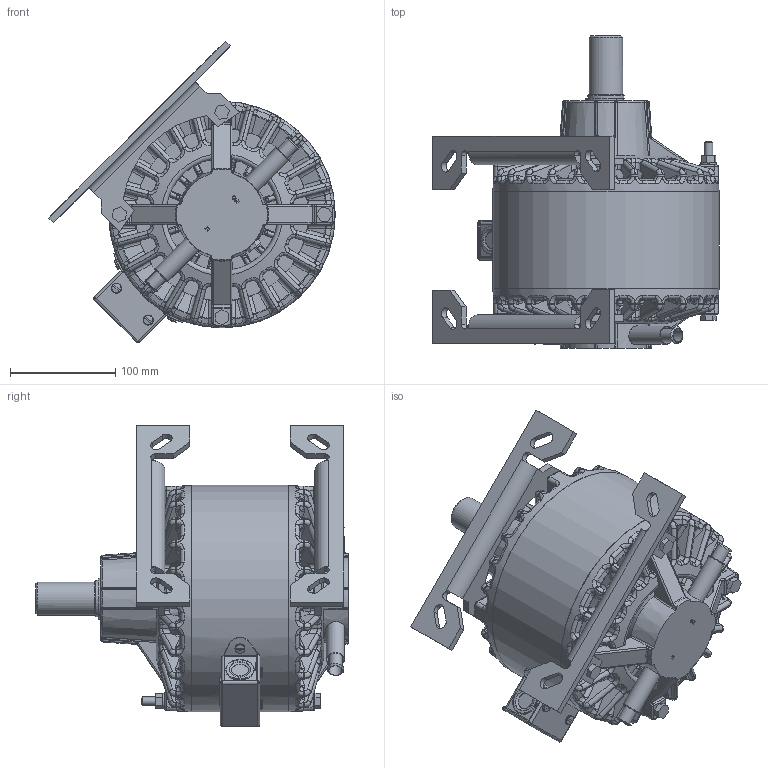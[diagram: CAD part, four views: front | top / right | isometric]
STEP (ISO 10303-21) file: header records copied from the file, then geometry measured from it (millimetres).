
FILE_DESCRIPTION(/* description */ ('STEP AP214'),/* implementation_level */ '2;1');
FILE_NAME(/* name */ '50MBW90B20_stp.step',/* time_stamp */ '2026-05-13T10:20:40-05:00',/* author */ (''),/* organization */ (''),/* preprocessor_version */ 'ST-DEVELOPER v20.1',/* originating_system */ 'Autodesk Translation Framework v15.8.0.0',/* authorisation */ '');
FILE_SCHEMA (('AUTOMOTIVE_DESIGN { 1 0 10303 214 3 1 1 }'));
Products named in the file (1): 50MBW90B20_asm_stp
Bounding box: 272.92 x 297.74 x 287.12 mm (x, y, z)
Volume: 3224618.1 mm3; surface area: 686398.6 mm2
Topology: 4 solids, 12 shells, 3208 faces, 8123 edges, 4871 vertices
Faces by surface type: bspline 1029, cylinder 815, plane 627, torus 386, cone 223, sphere 128
Full cylindrical faces by diameter (mm): 3.795 x4, 4.039 x4, 4.898 x2, 6.35 x4, 7.937 x1, 7.938 x10, 7.95 x1, 8.712 x1, 9.474 x4, 9.525 x8, 9.576 x8, 10.795 x1, 12.065 x1, 12.522 x2, 12.7 x1, 14.684 x2, 17.145 x2, 17.45 x1, 17.475 x1, 18.237 x2, 22.225 x3, 25.4 x1, 31.674 x1, 33.401 x2, 34.138 x1, 34.884 x2, 34.999 x2, 35 x1, 35.011 x1, 40.4 x4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
Entity records: 158661 total; most frequent: CARTESIAN_POINT 88254, ORIENTED_EDGE 16096, DIRECTION 13343, EDGE_CURVE 8048, AXIS2_PLACEMENT_3D 5605, VERTEX_POINT 4879, EDGE_LOOP 3395, CIRCLE 3279
